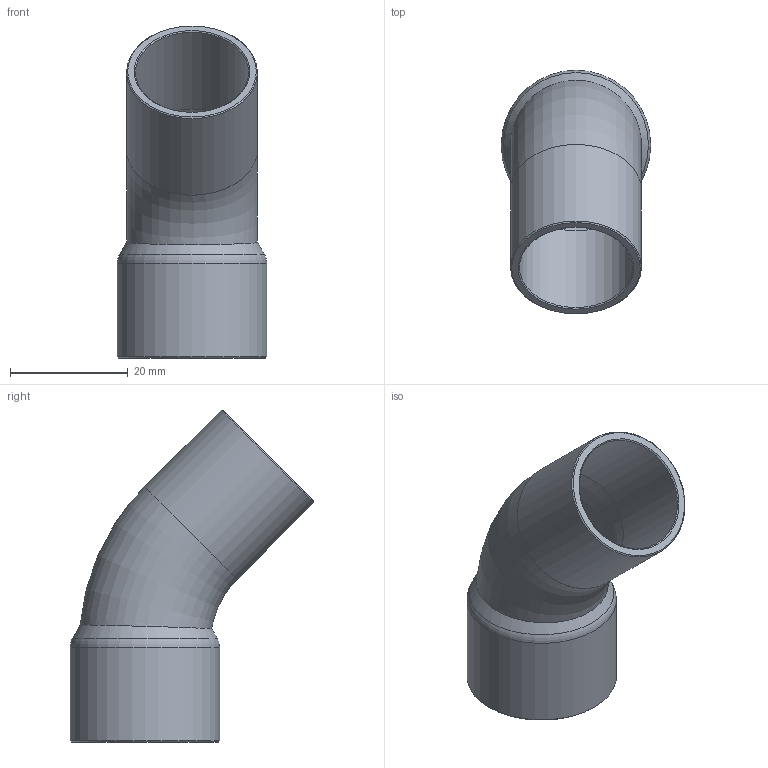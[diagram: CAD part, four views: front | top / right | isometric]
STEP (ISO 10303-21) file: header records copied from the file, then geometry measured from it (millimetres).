
FILE_DESCRIPTION((''),'2;1');
FILE_NAME('G:\SANHA-Ternat\Technik\Management\Bouwmaten + markeringen\z-maattekeningen 3D\29000s\2904078_3d.stp','2017-07-26T14:15:00',('vdvijverd'),(''),'Autodesk Inventor 2009','Autodesk Inventor 2009','');
FILE_SCHEMA(('AUTOMOTIVE_DESIGN { 1 0 10303 214 1 1 1 1 }'));
Length unit declared in the file: millimetre
Products named in the file (1): 2904078_3d
Bounding box: 25.38 x 41.38 x 56.35 mm (x, y, z)
Volume: 5786 mm3; surface area: 7903.4 mm2
Topology: 1 solids, 1 shells, 17 faces, 34 edges, 20 vertices
Faces by surface type: cone 6, cylinder 4, plane 3, torus 3, bspline 1
Full cylindrical faces by diameter (mm): 19.23 x1, 22.225 x1, 22.375 x1, 25.375 x1
Entity records: 480 total; most frequent: CARTESIAN_POINT 168, DIRECTION 64, ORIENTED_EDGE 34, EDGE_LOOP 34, AXIS2_PLACEMENT_3D 32, VERTEX_POINT 17, EDGE_CURVE 17, FACE_OUTER_BOUND 17
